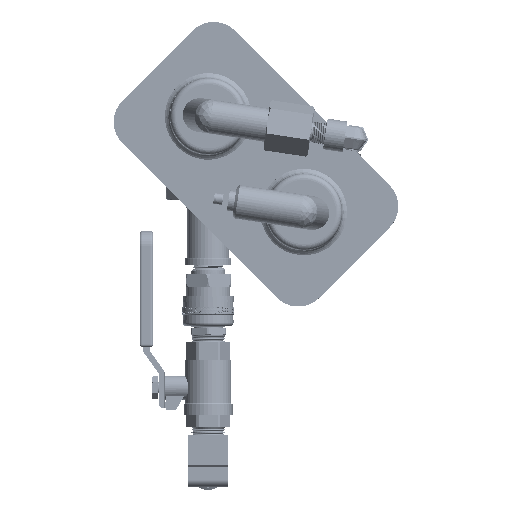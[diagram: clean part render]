
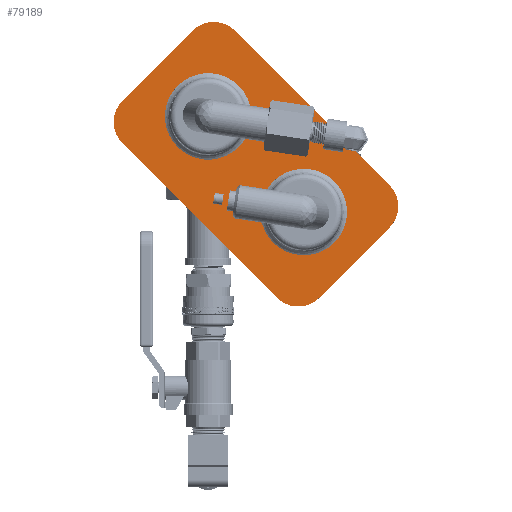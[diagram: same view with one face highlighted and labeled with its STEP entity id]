
A CAD part, top view. The second image highlights one B-rep face of the part: STEP entity #79189.
In plain terms, the highlighted planar face has unit normal (0, 0, 1).
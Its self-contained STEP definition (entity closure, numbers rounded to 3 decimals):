
#1783=FACE_BOUND('',#15590,.T.);
#1784=FACE_BOUND('',#15591,.T.);
#4538=PLANE('',#86839);
#10998=FACE_OUTER_BOUND('',#15589,.T.);
#15589=EDGE_LOOP('',(#69513,#69514,#69515,#69516,#69517,#69518,#69519,#69520));
#15590=EDGE_LOOP('',(#69521));
#15591=EDGE_LOOP('',(#69522));
#17508=CIRCLE('',#86817,1.088);
#17510=CIRCLE('',#86820,1.088);
#17512=CIRCLE('',#86823,0.75);
#17517=CIRCLE('',#86831,0.75);
#17518=CIRCLE('',#86834,0.75);
#17519=CIRCLE('',#86836,0.75);
#23815=LINE('',#216216,#29724);
#23821=LINE('',#216237,#29730);
#23825=LINE('',#216248,#29734);
#23826=LINE('',#216250,#29735);
#29724=VECTOR('',#107959,0.394);
#29730=VECTOR('',#107979,0.394);
#29734=VECTOR('',#107993,0.394);
#29735=VECTOR('',#107996,0.394);
#36446=VERTEX_POINT('',#216191);
#36448=VERTEX_POINT('',#216197);
#36450=VERTEX_POINT('',#216203);
#36451=VERTEX_POINT('',#216204);
#36455=VERTEX_POINT('',#216214);
#36461=VERTEX_POINT('',#216230);
#36462=VERTEX_POINT('',#216231);
#36463=VERTEX_POINT('',#216236);
#36464=VERTEX_POINT('',#216240);
#36465=VERTEX_POINT('',#216244);
#47455=EDGE_CURVE('',#36446,#36446,#17508,.T.);
#47458=EDGE_CURVE('',#36448,#36448,#17510,.T.);
#47461=EDGE_CURVE('',#36450,#36451,#17512,.T.);
#47467=EDGE_CURVE('',#36450,#36455,#23815,.T.);
#47474=EDGE_CURVE('',#36461,#36462,#17517,.T.);
#47477=EDGE_CURVE('',#36463,#36462,#23821,.T.);
#47479=EDGE_CURVE('',#36463,#36464,#17518,.T.);
#47481=EDGE_CURVE('',#36465,#36455,#17519,.T.);
#47483=EDGE_CURVE('',#36461,#36451,#23825,.T.);
#47484=EDGE_CURVE('',#36465,#36464,#23826,.T.);
#69513=ORIENTED_EDGE('',*,*,#47461,.F.);
#69514=ORIENTED_EDGE('',*,*,#47467,.T.);
#69515=ORIENTED_EDGE('',*,*,#47481,.F.);
#69516=ORIENTED_EDGE('',*,*,#47484,.T.);
#69517=ORIENTED_EDGE('',*,*,#47479,.F.);
#69518=ORIENTED_EDGE('',*,*,#47477,.T.);
#69519=ORIENTED_EDGE('',*,*,#47474,.F.);
#69520=ORIENTED_EDGE('',*,*,#47483,.T.);
#69521=ORIENTED_EDGE('',*,*,#47455,.T.);
#69522=ORIENTED_EDGE('',*,*,#47458,.T.);
#79189=ADVANCED_FACE('',(#10998,#1783,#1784),#4538,.T.);
#86817=AXIS2_PLACEMENT_3D('',#216192,#107935,#107936);
#86820=AXIS2_PLACEMENT_3D('',#216198,#107942,#107943);
#86823=AXIS2_PLACEMENT_3D('',#216205,#107949,#107950);
#86831=AXIS2_PLACEMENT_3D('',#216232,#107973,#107974);
#86834=AXIS2_PLACEMENT_3D('',#216241,#107983,#107984);
#86836=AXIS2_PLACEMENT_3D('',#216245,#107988,#107989);
#86839=AXIS2_PLACEMENT_3D('',#216251,#107997,#107998);
#107935=DIRECTION('center_axis',(0.,0.,
-1.));
#107936=DIRECTION('ref_axis',(0.707,-0.707,0.));
#107942=DIRECTION('center_axis',(0.,0.,
-1.));
#107943=DIRECTION('ref_axis',(0.707,-0.707,0.));
#107949=DIRECTION('center_axis',(0.,0.,
-1.));
#107950=DIRECTION('ref_axis',(-1.,0.,0.));
#107959=DIRECTION('',(0.707,-0.707,0.));
#107973=DIRECTION('center_axis',(0.,0.,
-1.));
#107974=DIRECTION('ref_axis',(0.,1.,0.));
#107979=DIRECTION('',(-0.707,0.707,0.));
#107983=DIRECTION('center_axis',(0.,0.,
-1.));
#107984=DIRECTION('ref_axis',(1.,0.,0.));
#107988=DIRECTION('center_axis',(0.,0.,
-1.));
#107989=DIRECTION('ref_axis',(0.,-1.,0.));
#107993=DIRECTION('',(-0.707,-0.707,0.));
#107996=DIRECTION('',(0.707,0.707,0.));
#107997=DIRECTION('center_axis',(0.,0.,
1.));
#107998=DIRECTION('ref_axis',(-0.707,0.707,0.));
#216191=CARTESIAN_POINT('',(2.135,7.682,3.242));
#216192=CARTESIAN_POINT('Origin',(2.904,6.913,3.242));
#216197=CARTESIAN_POINT('',(-0.269,10.087,3.242));
#216198=CARTESIAN_POINT('Origin',(0.5,9.317,3.242));
#216203=CARTESIAN_POINT('',(-1.657,8.646,3.242));
#216204=CARTESIAN_POINT('',(-1.657,9.706,3.242));
#216205=CARTESIAN_POINT('Origin',(-1.126,9.176,3.242));
#216214=CARTESIAN_POINT('',(2.232,4.756,3.242));
#216216=CARTESIAN_POINT('',(2.763,4.226,3.242));
#216230=CARTESIAN_POINT('',(0.111,11.474,3.242));
#216231=CARTESIAN_POINT('',(1.172,11.474,3.242));
#216232=CARTESIAN_POINT('Origin',(0.641,10.944,3.242));
#216236=CARTESIAN_POINT('',(5.061,7.585,3.242));
#216237=CARTESIAN_POINT('',(0.641,12.004,3.242));
#216240=CARTESIAN_POINT('',(5.061,6.524,3.242));
#216241=CARTESIAN_POINT('Origin',(4.531,7.055,3.242));
#216244=CARTESIAN_POINT('',(3.293,4.756,3.242));
#216245=CARTESIAN_POINT('Origin',(2.763,5.287,3.242));
#216248=CARTESIAN_POINT('',(-2.187,9.176,3.242));
#216250=CARTESIAN_POINT('',(5.591,7.055,3.242));
#216251=CARTESIAN_POINT('Origin',(1.702,8.115,3.242));
